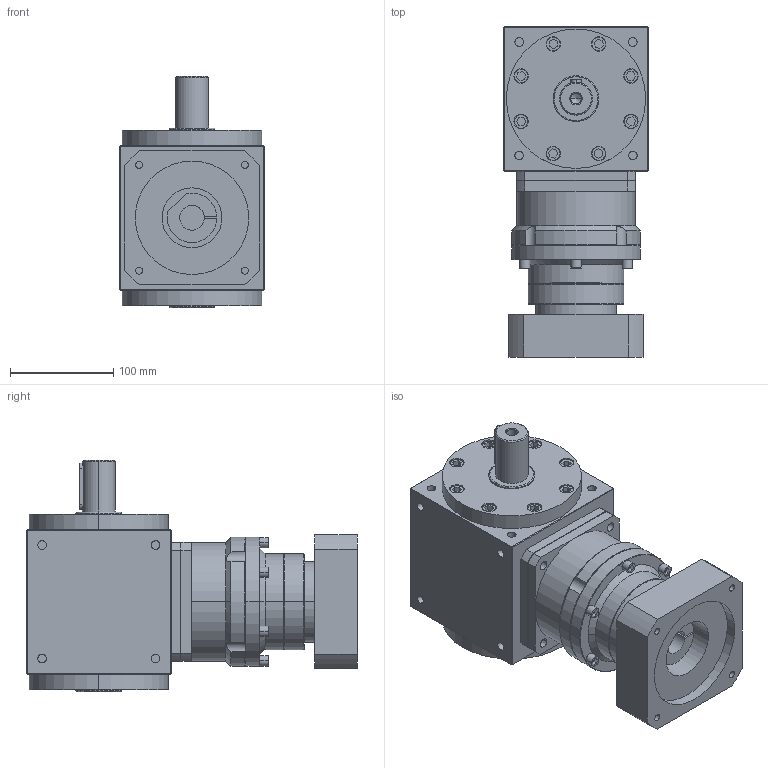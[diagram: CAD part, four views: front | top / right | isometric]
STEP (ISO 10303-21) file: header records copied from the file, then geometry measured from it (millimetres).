
FILE_DESCRIPTION (( 'STEP AP203' ), '1' );
FILE_NAME ('AT140-FL1-L2 24-110-145-M8.STEP', '2024-12-21T06:24:09', ( '' ), ( '' ), 'SwSTEP 2.0', 'SolidWorks 2021', '' );
FILE_SCHEMA (( 'CONFIG_CONTROL_DESIGN' ));
Length unit declared in the file: millimetre
Products named in the file (3): AT140-FL1-L2 24-110-145-M8; AT140-FL1; VRB-115-L2-S2-P1 24-110-145-M8
Assembly tree (2 placements, depth 2):
  AT140-FL1-L2 24-110-145-M8
    AT140-FL1
    VRB-115-L2-S2-P1 24-110-145-M8
Bounding box: 140 x 320.5 x 224 mm (x, y, z)
Volume: 5217098.6 mm3; surface area: 308049.3 mm2
Topology: 2 solids, 2 shells, 583 faces, 1386 edges, 877 vertices
Faces by surface type: plane 300, cylinder 237, cone 34, bspline 12
Entity records: 17674 total; most frequent: CARTESIAN_POINT 3917, DIRECTION 2839, ORIENTED_EDGE 2764, EDGE_CURVE 1382, AXIS2_PLACEMENT_3D 1033, VERTEX_POINT 877, VECTOR 773, LINE 773
